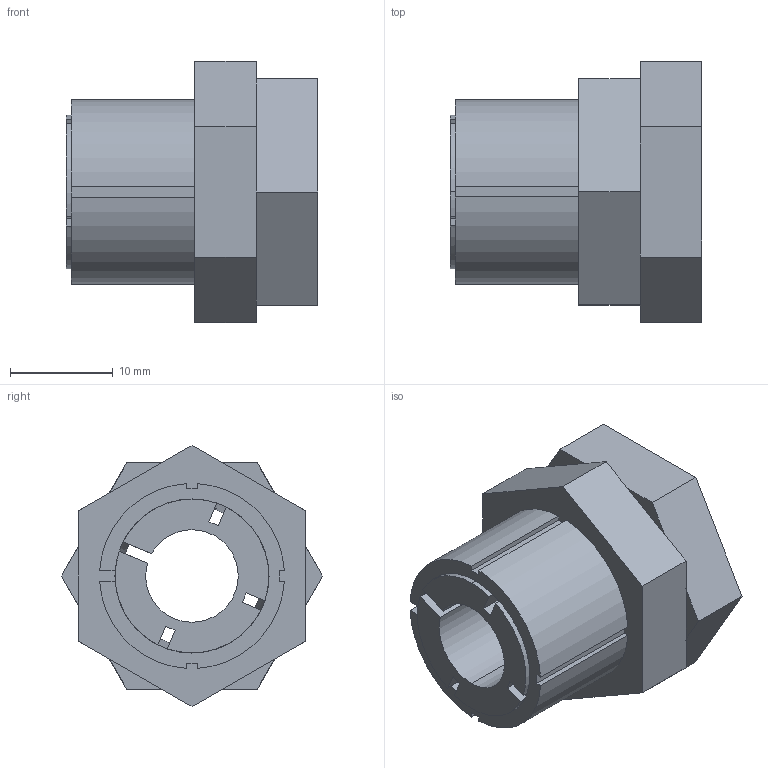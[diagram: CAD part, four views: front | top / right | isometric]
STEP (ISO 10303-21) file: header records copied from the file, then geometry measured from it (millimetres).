
FILE_DESCRIPTION (( 'STEP AP203' ), '1' );
FILE_NAME ('KBS 59 - 9 x 18.STEP', '2015-07-07T21:11:18', ( '' ), ( '' ), 'SwSTEP 2.0', 'SolidWorks 2010', '' );
FILE_SCHEMA (( 'CONFIG_CONTROL_DESIGN' ));
Length unit declared in the file: millimetre
Products named in the file (1): KBS 59 - 9 x 18
Bounding box: 24.5 x 25.4 x 25.4 mm (x, y, z)
Volume: 6282 mm3; surface area: 5840.9 mm2
Topology: 3 solids, 3 shells, 78 faces, 204 edges, 132 vertices
Faces by surface type: plane 56, cylinder 14, cone 8
Entity records: 2469 total; most frequent: CARTESIAN_POINT 451, ORIENTED_EDGE 408, DIRECTION 396, EDGE_CURVE 204, VECTOR 150, LINE 150, VERTEX_POINT 132, AXIS2_PLACEMENT_3D 123
